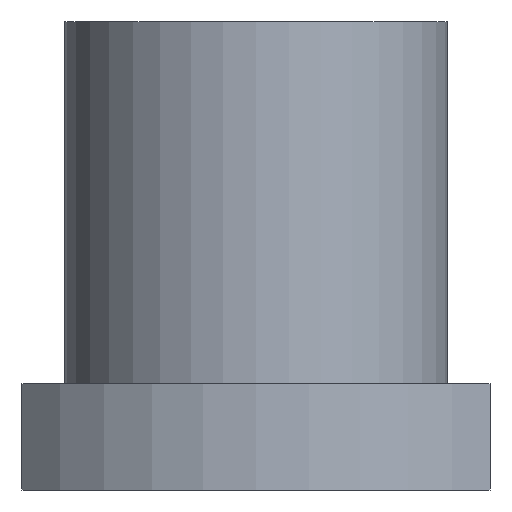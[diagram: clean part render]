
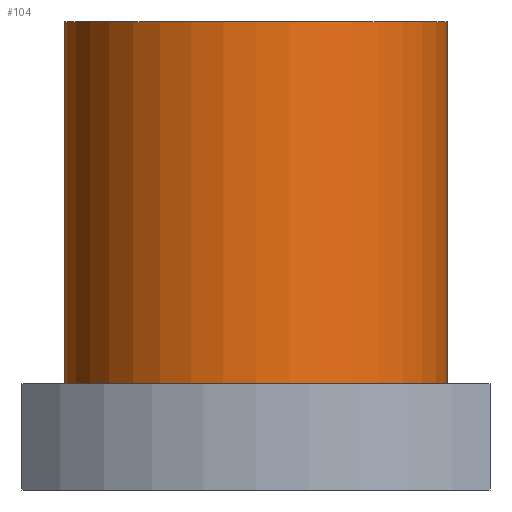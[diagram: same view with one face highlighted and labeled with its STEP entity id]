
A CAD part, front view. The second image highlights one B-rep face of the part: STEP entity #104.
In plain terms, the highlighted cylindrical face has radius 18 mm (diameter 36 mm), a full revolution.
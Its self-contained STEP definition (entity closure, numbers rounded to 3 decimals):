
#104=ADVANCED_FACE('',(#134,#135),#122,.T.);
#122=CYLINDRICAL_SURFACE('',#395,18.);
#134=FACE_BOUND('',#183,.T.);
#135=FACE_BOUND('',#184,.T.);
#183=EDGE_LOOP('',(#248));
#184=EDGE_LOOP('',(#249));
#248=ORIENTED_EDGE('',*,*,#340,.F.);
#249=ORIENTED_EDGE('',*,*,#341,.T.);
#312=VERTEX_POINT('',#590);
#313=VERTEX_POINT('',#592);
#340=EDGE_CURVE('',#312,#312,#369,.T.);
#341=EDGE_CURVE('',#313,#313,#370,.T.);
#369=CIRCLE('',#393,18.);
#370=CIRCLE('',#394,18.);
#393=AXIS2_PLACEMENT_3D('',#589,#440,#441);
#394=AXIS2_PLACEMENT_3D('',#591,#442,#443);
#395=AXIS2_PLACEMENT_3D('',#593,#444,#445);
#440=DIRECTION('',(0.,0.,-1.));
#441=DIRECTION('',(1.,0.,0.));
#442=DIRECTION('',(0.,0.,-1.));
#443=DIRECTION('',(1.,0.,0.));
#444=DIRECTION('',(0.,0.,-1.));
#445=DIRECTION('',(-1.,0.,0.));
#589=CARTESIAN_POINT('',(0.,0.,10.));
#590=CARTESIAN_POINT('',(18.,0.,10.));
#591=CARTESIAN_POINT('',(0.,0.,44.));
#592=CARTESIAN_POINT('',(18.,0.,44.));
#593=CARTESIAN_POINT('',(0.,0.,44.));
